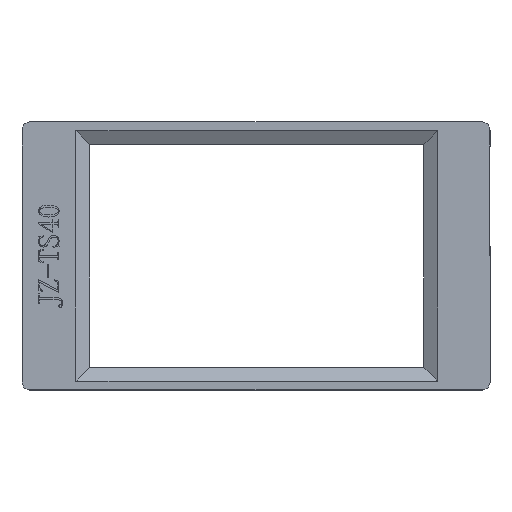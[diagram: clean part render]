
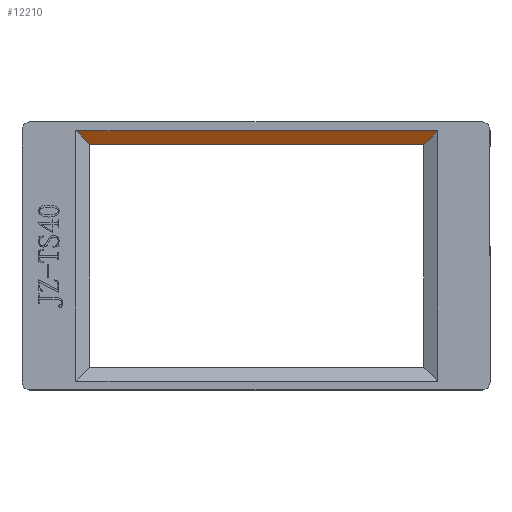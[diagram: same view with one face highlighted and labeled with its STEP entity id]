
A CAD part, top view. The second image highlights one B-rep face of the part: STEP entity #12210.
In plain terms, the highlighted planar face has unit normal (0, -0.5, 0.866).
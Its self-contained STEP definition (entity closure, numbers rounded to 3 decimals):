
#1557 = FACE_OUTER_BOUND ( 'NONE', #7494, .T. ) ;
#1835 = DIRECTION ( 'NONE',  ( 0., 0.5, -0.866 ) ) ;
#1956 = CARTESIAN_POINT ( 'NONE',  ( 101.634, 62.504, 0. ) ) ;
#2402 = VERTEX_POINT ( 'NONE', #2515 ) ;
#2515 = CARTESIAN_POINT ( 'NONE',  ( 98.17, 59.04, -2. ) ) ;
#3551 = VECTOR ( 'NONE', #8411, 1000. ) ;
#3595 = VERTEX_POINT ( 'NONE', #8335 ) ;
#3764 = DIRECTION ( 'NONE',  ( -0.655, 0.655, 0.378 ) ) ;
#3866 = VECTOR ( 'NONE', #7971, 1000. ) ;
#4112 = VERTEX_POINT ( 'NONE', #1956 ) ;
#5682 = LINE ( 'NONE', #6047, #11698 ) ;
#5980 = VECTOR ( 'NONE', #9851, 1000. ) ;
#6047 = CARTESIAN_POINT ( 'NONE',  ( 39.953, 33.737, -16.609 ) ) ;
#6372 = CARTESIAN_POINT ( 'NONE',  ( 0., 62.504, 0. ) ) ;
#6874 = CARTESIAN_POINT ( 'NONE',  ( 74.847, 35.717, -15.466 ) ) ;
#7252 = CARTESIAN_POINT ( 'NONE',  ( 0., 59.04, -2. ) ) ;
#7466 = PLANE ( 'NONE',  #12859 ) ;
#7494 = EDGE_LOOP ( 'NONE', ( #8769, #14242, #14686, #9176 ) ) ;
#7763 = VERTEX_POINT ( 'NONE', #7995 ) ;
#7971 = DIRECTION ( 'NONE',  ( -0.655, -0.655, -0.378 ) ) ;
#7995 = CARTESIAN_POINT ( 'NONE',  ( 14.65, 59.04, -2. ) ) ;
#8335 = CARTESIAN_POINT ( 'NONE',  ( 11.186, 62.504, 0. ) ) ;
#8411 = DIRECTION ( 'NONE',  ( 1., 0., 0. ) ) ;
#8654 = LINE ( 'NONE', #8708, #5980 ) ;
#8708 = CARTESIAN_POINT ( 'NONE',  ( 0., 62.504, 0. ) ) ;
#8769 = ORIENTED_EDGE ( 'NONE', *, *, #14089, .F. ) ;
#9089 = EDGE_CURVE ( 'NONE', #3595, #4112, #8654, .T. ) ;
#9176 = ORIENTED_EDGE ( 'NONE', *, *, #11153, .T. ) ;
#9814 = DIRECTION ( 'NONE',  ( 1., 0., 0. ) ) ;
#9851 = DIRECTION ( 'NONE',  ( 1., 0., 0. ) ) ;
#9914 = LINE ( 'NONE', #6874, #3866 ) ;
#10962 = EDGE_CURVE ( 'NONE', #7763, #3595, #5682, .T. ) ;
#11153 = EDGE_CURVE ( 'NONE', #7763, #2402, #12589, .T. ) ;
#11698 = VECTOR ( 'NONE', #3764, 1000. ) ;
#12210 = ADVANCED_FACE ( 'NONE', ( #1557 ), #7466, .F. ) ;
#12589 = LINE ( 'NONE', #7252, #3551 ) ;
#12859 = AXIS2_PLACEMENT_3D ( 'NONE', #6372, #1835, #9814 ) ;
#14089 = EDGE_CURVE ( 'NONE', #4112, #2402, #9914, .T. ) ;
#14242 = ORIENTED_EDGE ( 'NONE', *, *, #9089, .F. ) ;
#14686 = ORIENTED_EDGE ( 'NONE', *, *, #10962, .F. ) ;
